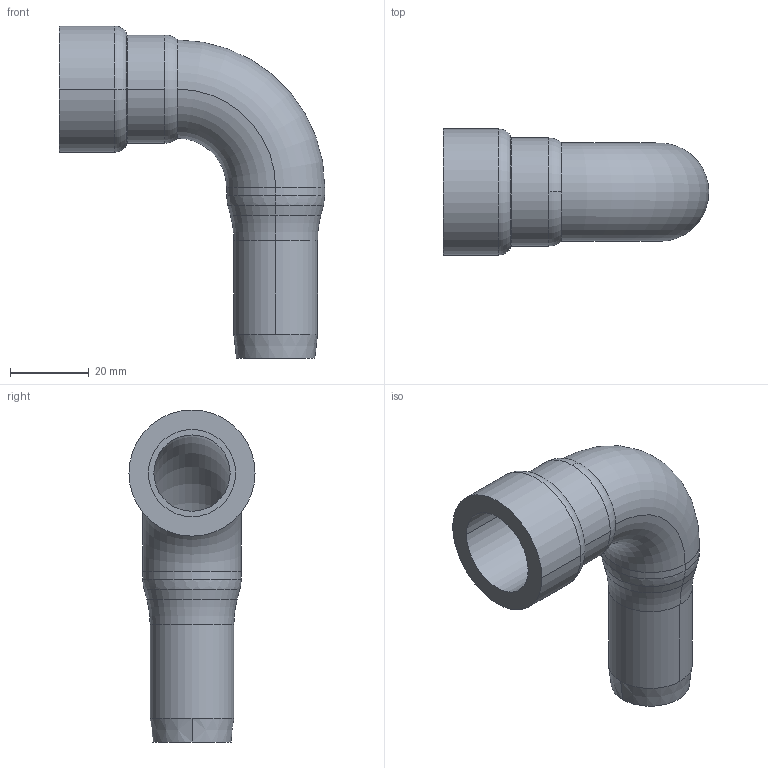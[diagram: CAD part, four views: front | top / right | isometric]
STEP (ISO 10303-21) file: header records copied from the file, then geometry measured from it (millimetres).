
FILE_DESCRIPTION(('Creo Elements/Direct Modeling STEP Export'),'2;1');
FILE_NAME('C9411_1-2.stp','2020-06-25T10:42:03',(''),(''),'PTC Creo Elements/Direct Modeling STEP processor for AP214 (Solid Model)','PTC Creo Elements/Direct Modeling 19.0C 15-Aug-2015 (C) Parametric Technology GmbH','');
FILE_SCHEMA(('AUTOMOTIVE_DESIGN { 1 0 10303 214 1 1 1 1 }'));
Length unit declared in the file: millimetre
Products named in the file (2): 1-2
Assembly tree (1 placements, depth 2):
  1-2
    1-2
Bounding box: 67.57 x 32.1 x 84.47 mm (x, y, z)
Volume: 25084.1 mm3; surface area: 16316.6 mm2
Topology: 1 solids, 1 shells, 43 faces, 99 edges, 59 vertices
Faces by surface type: torus 16, cylinder 16, cone 8, plane 3
Entity records: 1109 total; most frequent: ORIENTED_EDGE 198, DIRECTION 192, CARTESIAN_POINT 167, EDGE_CURVE 99, AXIS2_PLACEMENT_3D 84, VERTEX_POINT 59, EDGE_LOOP 46, FACE_OUTER_BOUND 43
